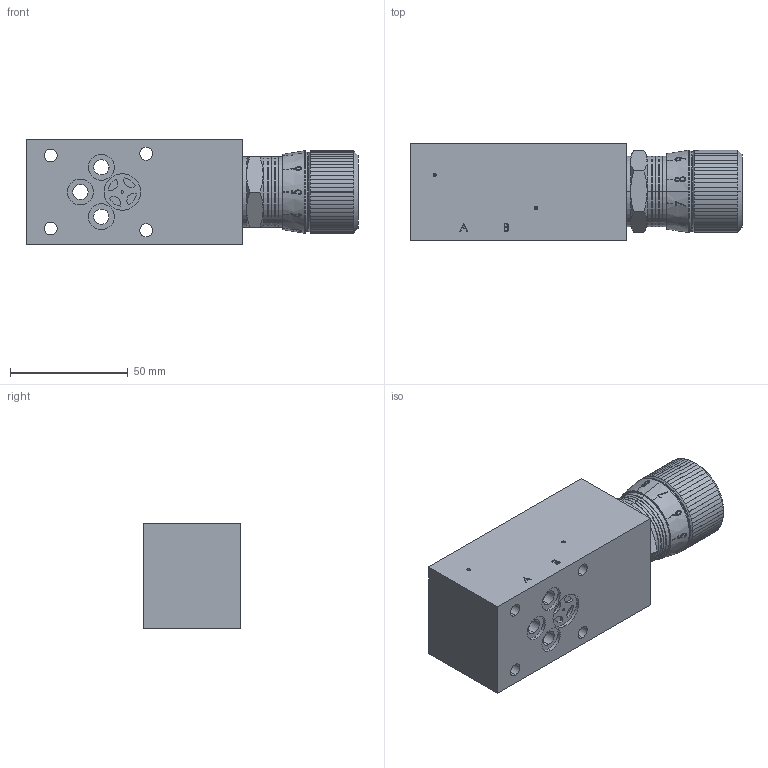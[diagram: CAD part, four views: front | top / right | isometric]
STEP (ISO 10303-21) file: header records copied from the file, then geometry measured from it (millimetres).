
FILE_DESCRIPTION (( 'STEP AP214' ), '1' );
FILE_NAME ('AURDB6.STEP', '2017-04-12T14:09:37', ( '' ), ( '' ), 'SwSTEP 2.0', 'SolidWorks 2016', '' );
FILE_SCHEMA (( 'AUTOMOTIVE_DESIGN' ));
Length unit declared in the file: millimetre
Products named in the file (1): AURDB6
Bounding box: 141 x 41.5 x 45 mm (x, y, z)
Volume: 204496.8 mm3; surface area: 31457.7 mm2
Topology: 1 solids, 5 shells, 958 faces, 2634 edges, 1718 vertices
Faces by surface type: plane 590, cylinder 152, bspline 127, cone 85, torus 4
Entity records: 55523 total; most frequent: CARTESIAN_POINT 22758, ORIENTED_EDGE 5248, DIRECTION 3807, EDGE_CURVE 2624, VERTEX_POINT 1718, AXIS2_PLACEMENT_3D 1401, B_SPLINE_CURVE_WITH_KNOTS 1028, EDGE_LOOP 1018
